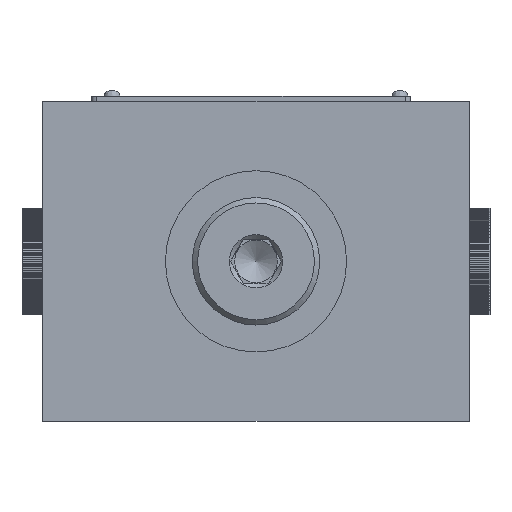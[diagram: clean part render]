
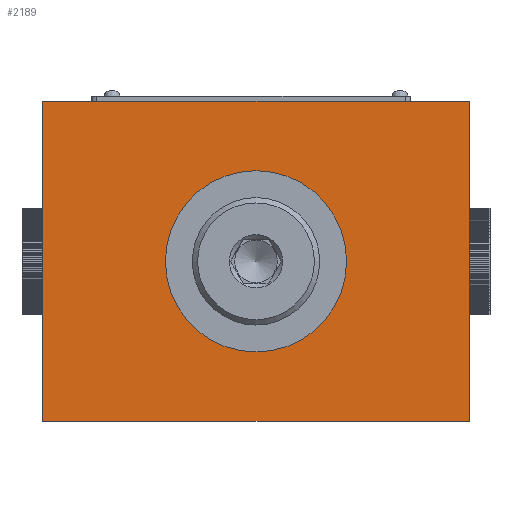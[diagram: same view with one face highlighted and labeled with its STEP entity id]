
A CAD part, left-side view. The second image highlights one B-rep face of the part: STEP entity #2189.
In plain terms, the highlighted planar face has unit normal (-1, 0, 0).
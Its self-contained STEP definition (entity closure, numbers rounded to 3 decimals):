
#2189=ADVANCED_FACE('',(#5921,#5922),#3237,.F.);
#3237=PLANE('',#17519);
#3718=LINE('',#24173,#4811);
#3724=LINE('',#24240,#4817);
#3728=LINE('',#24254,#4821);
#3729=LINE('',#24258,#4822);
#4811=VECTOR('',#19365,1.);
#4817=VECTOR('',#19393,1.);
#4821=VECTOR('',#19407,1.);
#4822=VECTOR('',#19412,1.);
#5921=FACE_BOUND('',#6505,.T.);
#5922=FACE_BOUND('',#6506,.T.);
#6505=EDGE_LOOP('',(#7863));
#6506=EDGE_LOOP('',(#7864,#7865,#7866,#7867));
#7863=ORIENTED_EDGE('',*,*,#14292,.F.);
#7864=ORIENTED_EDGE('',*,*,#14293,.T.);
#7865=ORIENTED_EDGE('',*,*,#14284,.F.);
#7866=ORIENTED_EDGE('',*,*,#14266,.F.);
#7867=ORIENTED_EDGE('',*,*,#14291,.T.);
#12626=VERTEX_POINT('',#24174);
#12627=VERTEX_POINT('',#24175);
#12642=VERTEX_POINT('',#24237);
#12648=VERTEX_POINT('',#24253);
#12649=VERTEX_POINT('',#24257);
#14266=EDGE_CURVE('',#12626,#12627,#3718,.T.);
#14284=EDGE_CURVE('',#12627,#12642,#3724,.T.);
#14291=EDGE_CURVE('',#12626,#12648,#3728,.T.);
#14292=EDGE_CURVE('',#12649,#12649,#16674,.T.);
#14293=EDGE_CURVE('',#12648,#12642,#3729,.T.);
#16674=CIRCLE('',#17518,17.);
#17518=AXIS2_PLACEMENT_3D('',#24256,#19410,#19411);
#17519=AXIS2_PLACEMENT_3D('',#24259,#19413,#19414);
#19365=DIRECTION('',(0.,-1.,0.));
#19393=DIRECTION('',(0.,0.,-1.));
#19407=DIRECTION('',(0.,0.,-1.));
#19410=DIRECTION('',(-1.,0.,0.));
#19411=DIRECTION('',(0.,-1.,0.));
#19412=DIRECTION('',(0.,-1.,0.));
#19413=DIRECTION('',(1.,0.,0.));
#19414=DIRECTION('',(0.,0.,-1.));
#24173=CARTESIAN_POINT('',(0.,0.,30.));
#24174=CARTESIAN_POINT('',(0.,40.,30.));
#24175=CARTESIAN_POINT('',(0.,-40.,30.));
#24237=CARTESIAN_POINT('',(0.,-40.,-30.));
#24240=CARTESIAN_POINT('',(0.,-40.,30.));
#24253=CARTESIAN_POINT('',(0.,40.,-30.));
#24254=CARTESIAN_POINT('',(0.,40.,30.));
#24256=CARTESIAN_POINT('',(0.,0.,
0.));
#24257=CARTESIAN_POINT('',(0.,-17.,0.));
#24258=CARTESIAN_POINT('',(0.,40.,-30.));
#24259=CARTESIAN_POINT('',(0.,40.,30.));
